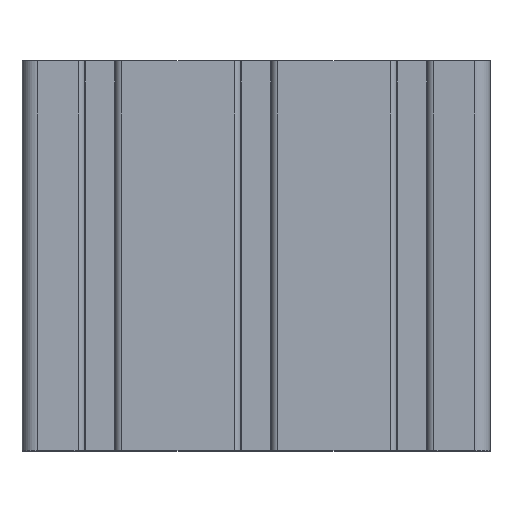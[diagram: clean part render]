
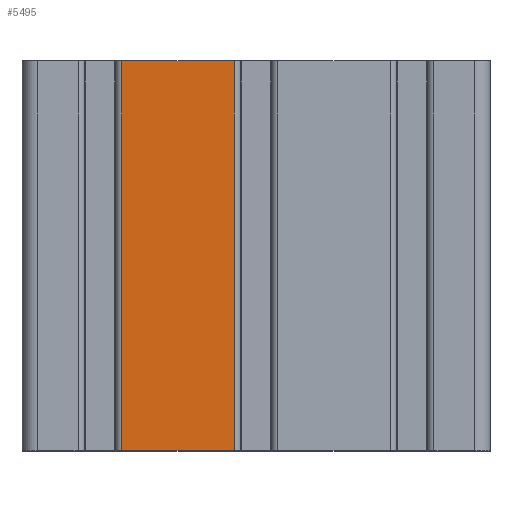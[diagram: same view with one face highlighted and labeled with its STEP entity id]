
A CAD part, top view. The second image highlights one B-rep face of the part: STEP entity #5495.
In plain terms, the highlighted planar face has unit normal (0, 0, 1).
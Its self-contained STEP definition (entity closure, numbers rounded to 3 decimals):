
#362 = CARTESIAN_POINT ( 'NONE',  ( -34.37, 50., 20. ) ) ;
#1445 = ORIENTED_EDGE ( 'NONE', *, *, #10041, .F. ) ;
#1453 = CARTESIAN_POINT ( 'NONE',  ( -5.63, -50., 20. ) ) ;
#1768 = EDGE_CURVE ( 'NONE', #8744, #7057, #7442, .T. ) ;
#1849 = VERTEX_POINT ( 'NONE', #2937 ) ;
#2554 = CARTESIAN_POINT ( 'NONE',  ( -5.63, 50., 20. ) ) ;
#2622 = FACE_OUTER_BOUND ( 'NONE', #5084, .T. ) ;
#2678 = ORIENTED_EDGE ( 'NONE', *, *, #7621, .F. ) ;
#2693 = CARTESIAN_POINT ( 'NONE',  ( -34.37, -50., 20. ) ) ;
#2806 = VECTOR ( 'NONE', #8240, 1000. ) ;
#2937 = CARTESIAN_POINT ( 'NONE',  ( -34.37, 50., 20. ) ) ;
#3762 = DIRECTION ( 'NONE',  ( 1., 0., 0. ) ) ;
#4036 = CARTESIAN_POINT ( 'NONE',  ( -5.63, 50., 20. ) ) ;
#4385 = VECTOR ( 'NONE', #9853, 1000. ) ;
#4937 = DIRECTION ( 'NONE',  ( 0., 0., -1. ) ) ;
#5023 = LINE ( 'NONE', #2554, #2806 ) ;
#5084 = EDGE_LOOP ( 'NONE', ( #10174, #2678, #1445, #7498 ) ) ;
#5495 = ADVANCED_FACE ( 'NONE', ( #2622 ), #8218, .F. ) ;
#5824 = DIRECTION ( 'NONE',  ( 0., -1., 0. ) ) ;
#6893 = LINE ( 'NONE', #362, #9544 ) ;
#7035 = VERTEX_POINT ( 'NONE', #4036 ) ;
#7057 = VERTEX_POINT ( 'NONE', #1453 ) ;
#7201 = EDGE_CURVE ( 'NONE', #1849, #8744, #9837, .T. ) ;
#7442 = LINE ( 'NONE', #2693, #4385 ) ;
#7498 = ORIENTED_EDGE ( 'NONE', *, *, #7201, .T. ) ;
#7621 = EDGE_CURVE ( 'NONE', #7035, #7057, #5023, .T. ) ;
#7698 = VECTOR ( 'NONE', #5824, 1000. ) ;
#8146 = CARTESIAN_POINT ( 'NONE',  ( -34.37, 50., 20. ) ) ;
#8159 = DIRECTION ( 'NONE',  ( -1., 0., 0. ) ) ;
#8218 = PLANE ( 'NONE',  #9549 ) ;
#8240 = DIRECTION ( 'NONE',  ( 0., -1., 0. ) ) ;
#8309 = CARTESIAN_POINT ( 'NONE',  ( -34.37, 50., 20. ) ) ;
#8744 = VERTEX_POINT ( 'NONE', #9453 ) ;
#9453 = CARTESIAN_POINT ( 'NONE',  ( -34.37, -50., 20. ) ) ;
#9544 = VECTOR ( 'NONE', #3762, 1000. ) ;
#9549 = AXIS2_PLACEMENT_3D ( 'NONE', #8309, #4937, #8159 ) ;
#9837 = LINE ( 'NONE', #8146, #7698 ) ;
#9853 = DIRECTION ( 'NONE',  ( 1., 0., 0. ) ) ;
#10041 = EDGE_CURVE ( 'NONE', #1849, #7035, #6893, .T. ) ;
#10174 = ORIENTED_EDGE ( 'NONE', *, *, #1768, .T. ) ;
